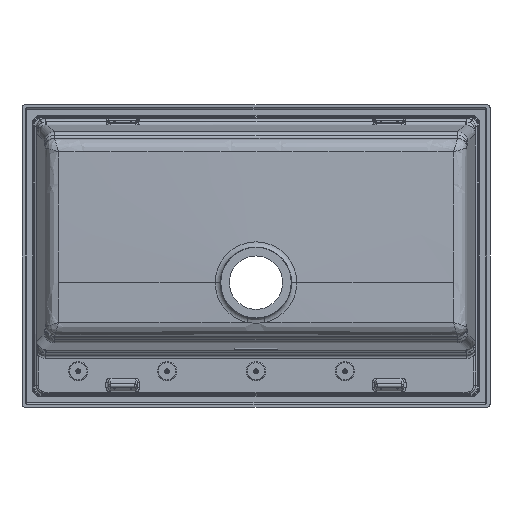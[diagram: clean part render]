
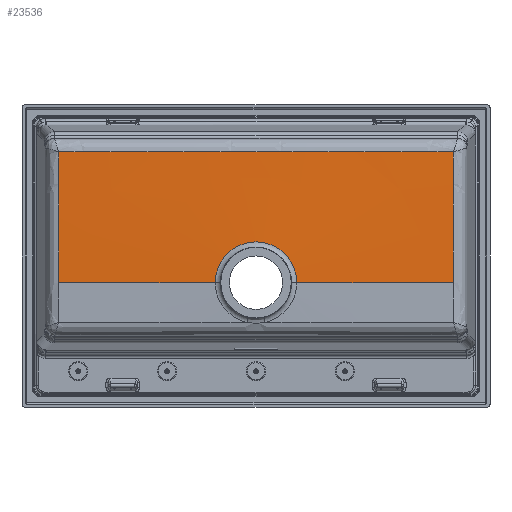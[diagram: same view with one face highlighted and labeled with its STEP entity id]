
A CAD part, front view. The second image highlights one B-rep face of the part: STEP entity #23536.
In plain terms, the highlighted conical face has half-angle 88.5 degrees and reference radius 50.209 mm.
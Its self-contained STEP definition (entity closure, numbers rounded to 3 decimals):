
#18 = DIRECTION ( 'NONE',  ( 0., 1., 0. ) ) ;
#827 = CARTESIAN_POINT ( 'NONE',  ( -333.224, -190.847, -8.203 ) ) ;
#855 = VERTEX_POINT ( 'NONE', #2848 ) ;
#1032 = CARTESIAN_POINT ( 'NONE',  ( 138.87, -192.771, 175.629 ) ) ;
#2302 = CARTESIAN_POINT ( 'NONE',  ( -333.276, -189.104, 175.772 ) ) ;
#2415 = CARTESIAN_POINT ( 'NONE',  ( -333.224, -190.847, -45. ) ) ;
#2495 = EDGE_CURVE ( 'NONE', #15323, #21081, #11169, .T. ) ;
#2737 = CARTESIAN_POINT ( 'NONE',  ( 194.418, -191.893, 175.647 ) ) ;
#2848 = CARTESIAN_POINT ( 'NONE',  ( 333.224, -190.847, -45. ) ) ;
#2852 = CARTESIAN_POINT ( 'NONE',  ( 333.276, -189.104, 175.772 ) ) ;
#3190 = ORIENTED_EDGE ( 'NONE', *, *, #21463, .F. ) ;
#3679 = AXIS2_PLACEMENT_3D ( 'NONE', #16873, #18, #9357 ) ;
#3776 = ORIENTED_EDGE ( 'NONE', *, *, #21802, .T. ) ;
#4029 = CARTESIAN_POINT ( 'NONE',  ( -68.837, -197.77, -45. ) ) ;
#4546 = CARTESIAN_POINT ( 'NONE',  ( -277.738, -190.295, 175.709 ) ) ;
#4678 = LINE ( 'NONE', #12084, #6337 ) ;
#5238 = ORIENTED_EDGE ( 'NONE', *, *, #17896, .T. ) ;
#5599 = DIRECTION ( 'NONE',  ( 0., 1., 0. ) ) ;
#5798 = CARTESIAN_POINT ( 'NONE',  ( 333.242, -190.077, 102.185 ) ) ;
#5933 = CARTESIAN_POINT ( 'NONE',  ( -333.242, -190.077, 102.185 ) ) ;
#6055 = B_SPLINE_CURVE_WITH_KNOTS ( 'NONE', 3,
 ( #2415, #827, #17098, #5933, #11752, #2302 ),
 .UNSPECIFIED., .F., .F.,
 ( 4, 2, 4 ),
 ( 0.067, 0.178, 0.288 ),
 .UNSPECIFIED. ) ;
#6337 = VECTOR ( 'NONE', #21196, 1000. ) ;
#6377 = CARTESIAN_POINT ( 'NONE',  ( 333.276, -189.104, 175.772 ) ) ;
#6725 = CARTESIAN_POINT ( 'NONE',  ( -333.276, -189.104, 175.772 ) ) ;
#6853 = CARTESIAN_POINT ( 'NONE',  ( -138.884, -192.77, 175.629 ) ) ;
#7010 = CARTESIAN_POINT ( 'NONE',  ( -333.276, -189.104, 175.772 ) ) ;
#7271 = CARTESIAN_POINT ( 'NONE',  ( 333.224, -190.847, -45. ) ) ;
#7398 = CARTESIAN_POINT ( 'NONE',  ( 333.276, -189.104, 175.772 ) ) ;
#8795 = CARTESIAN_POINT ( 'NONE',  ( 55.545, -193.654, 175.628 ) ) ;
#9251 = ORIENTED_EDGE ( 'NONE', *, *, #2495, .F. ) ;
#9357 = DIRECTION ( 'NONE',  ( -1., 0., 0. ) ) ;
#9875 = ORIENTED_EDGE ( 'NONE', *, *, #20993, .F. ) ;
#10138 = CARTESIAN_POINT ( 'NONE',  ( 277.735, -190.295, 175.709 ) ) ;
#10383 = CARTESIAN_POINT ( 'NONE',  ( -55.563, -193.654, 175.628 ) ) ;
#11169 = B_SPLINE_CURVE_WITH_KNOTS ( 'NONE', 3,
 ( #6725, #15706, #4546, #19363, #23495, #6853, #15832, #10383, #21678, #14014, #8795, #14132, #1032, #2737, #19480, #10138, #19736, #2852 ),
 .UNSPECIFIED., .F., .F.,
 ( 4, 2, 2, 2, 2, 2, 2, 2, 4 ),
 ( 0., 0.083, 0.167, 0.25, 0.333, 0.417, 0.5, 0.583, 0.667 ),
 .UNSPECIFIED. ) ;
#11181 = FACE_OUTER_BOUND ( 'NONE', #17632, .T. ) ;
#11530 = VERTEX_POINT ( 'NONE', #21274 ) ;
#11752 = CARTESIAN_POINT ( 'NONE',  ( -333.255, -189.637, 138.979 ) ) ;
#11798 = CARTESIAN_POINT ( 'NONE',  ( -333.224, -190.847, -45. ) ) ;
#12084 = CARTESIAN_POINT ( 'NONE',  ( -50.209, -198.258, -45. ) ) ;
#13004 = DIRECTION ( 'NONE',  ( -1., 0., 0. ) ) ;
#14014 = CARTESIAN_POINT ( 'NONE',  ( 27.768, -193.795, 175.631 ) ) ;
#14132 = CARTESIAN_POINT ( 'NONE',  ( 111.096, -193.14, 175.627 ) ) ;
#14548 = CARTESIAN_POINT ( 'NONE',  ( 333.255, -189.637, 138.979 ) ) ;
#14790 = CARTESIAN_POINT ( 'NONE',  ( 333.224, -190.847, -8.203 ) ) ;
#15323 = VERTEX_POINT ( 'NONE', #7010 ) ;
#15706 = CARTESIAN_POINT ( 'NONE',  ( -305.507, -189.711, 175.738 ) ) ;
#15832 = CARTESIAN_POINT ( 'NONE',  ( -111.111, -193.14, 175.627 ) ) ;
#16444 = VERTEX_POINT ( 'NONE', #11798 ) ;
#16484 = CARTESIAN_POINT ( 'NONE',  ( 333.227, -190.683, 28.594 ) ) ;
#16695 = LINE ( 'NONE', #18740, #18384 ) ;
#16873 = CARTESIAN_POINT ( 'NONE',  ( 0., -198.258, -45. ) ) ;
#17098 = CARTESIAN_POINT ( 'NONE',  ( -333.227, -190.683, 28.594 ) ) ;
#17632 = EDGE_LOOP ( 'NONE', ( #5238, #3776, #3190, #9251, #21745, #9875 ) ) ;
#17811 = CIRCLE ( 'NONE', #21311, 68.837 ) ;
#17896 = EDGE_CURVE ( 'NONE', #22007, #11530, #17811, .T. ) ;
#18143 = EDGE_CURVE ( 'NONE', #16444, #15323, #6055, .T. ) ;
#18384 = VECTOR ( 'NONE', #20581, 1000. ) ;
#18740 = CARTESIAN_POINT ( 'NONE',  ( 50.209, -198.258, -45. ) ) ;
#19363 = CARTESIAN_POINT ( 'NONE',  ( -222.197, -191.386, 175.663 ) ) ;
#19480 = CARTESIAN_POINT ( 'NONE',  ( 222.191, -191.386, 175.663 ) ) ;
#19562 = CONICAL_SURFACE ( 'NONE', #3679, 50.209, 1.545 ) ;
#19736 = CARTESIAN_POINT ( 'NONE',  ( 305.506, -189.711, 175.738 ) ) ;
#20581 = DIRECTION ( 'NONE',  ( 1., 0.026, 0. ) ) ;
#20993 = EDGE_CURVE ( 'NONE', #22007, #16444, #4678, .T. ) ;
#21081 = VERTEX_POINT ( 'NONE', #6377 ) ;
#21196 = DIRECTION ( 'NONE',  ( -1., 0.026, 0. ) ) ;
#21274 = CARTESIAN_POINT ( 'NONE',  ( 68.837, -197.77, -45. ) ) ;
#21311 = AXIS2_PLACEMENT_3D ( 'NONE', #22250, #5599, #13004 ) ;
#21463 = EDGE_CURVE ( 'NONE', #21081, #855, #22420, .T. ) ;
#21678 = CARTESIAN_POINT ( 'NONE',  ( -27.787, -193.795, 175.631 ) ) ;
#21745 = ORIENTED_EDGE ( 'NONE', *, *, #18143, .F. ) ;
#21802 = EDGE_CURVE ( 'NONE', #11530, #855, #16695, .T. ) ;
#22007 = VERTEX_POINT ( 'NONE', #4029 ) ;
#22250 = CARTESIAN_POINT ( 'NONE',  ( 0., -197.77, -45. ) ) ;
#22420 = B_SPLINE_CURVE_WITH_KNOTS ( 'NONE', 3,
 ( #7398, #14548, #5798, #16484, #14790, #7271 ),
 .UNSPECIFIED., .F., .F.,
 ( 4, 2, 4 ),
 ( 0., 0.11, 0.221 ),
 .UNSPECIFIED. ) ;
#23495 = CARTESIAN_POINT ( 'NONE',  ( -194.427, -191.893, 175.647 ) ) ;
#23536 = ADVANCED_FACE ( 'NONE', ( #11181 ), #19562, .T. ) ;
